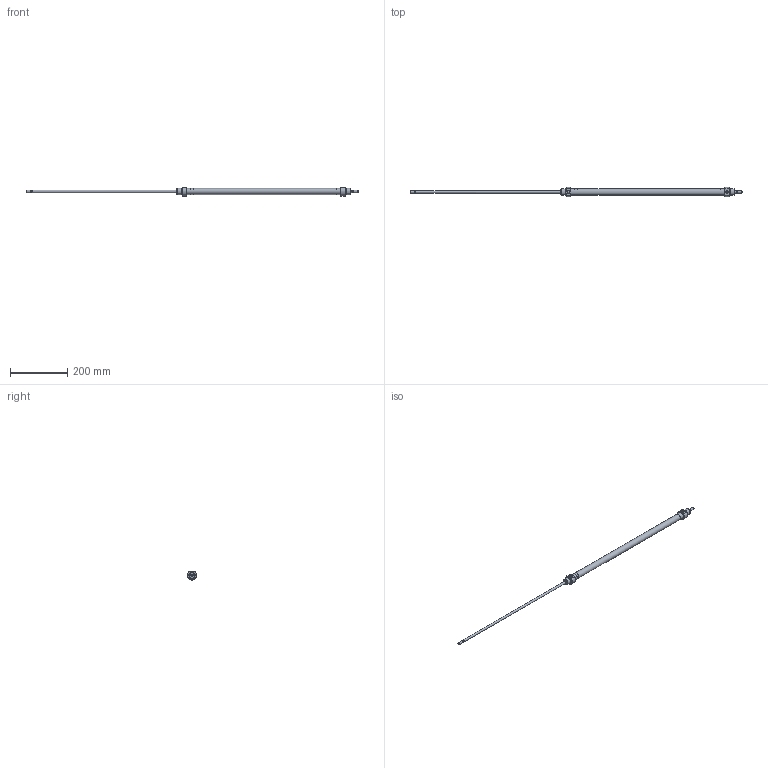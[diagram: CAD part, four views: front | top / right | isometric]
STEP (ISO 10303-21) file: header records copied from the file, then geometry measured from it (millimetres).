
FILE_DESCRIPTION( ( 'STEP AP203' ), '1' );
FILE_NAME( '//expscmdclustefs.cadenas.external/client_exchange/iodir/jobs/output/wkb68462990_no0/STEP/M101-020-0500--__0__2_03.stp', ' ', ( ' ' ), ( ' ' ), 'PSStep 15.0.47', 'PARTsolutions', ' ' );
FILE_SCHEMA( ( 'CONFIG_CONTROL_DESIGN' ) );
Length unit declared in the file: millimetre
Products named in the file (3): M101-020-0500-- [0]; HI_M101-020-0500---[0]-z; HI_M101-020-0500---[0]-k
Assembly tree (2 placements, depth 2):
  M101-020-0500-- [0]
    HI_M101-020-0500---[0]-z
    HI_M101-020-0500---[0]-k
Bounding box: 1156 x 32 x 28 mm (x, y, z)
Volume: 128863.4 mm3; surface area: 109472.4 mm2
Topology: 2 solids, 2 shells, 65 faces, 129 edges, 80 vertices
Faces by surface type: plane 26, cylinder 23, cone 14, torus 2
Full cylindrical faces by diameter (mm): 6.466 x2, 8 x6, 8.566 x2, 20 x2, 20.16 x4, 21.6 x1, 22 x4
Entity records: 1702 total; most frequent: CARTESIAN_POINT 356, DIRECTION 280, ORIENTED_EDGE 184, AXIS2_PLACEMENT_3D 128, EDGE_LOOP 116, EDGE_CURVE 92, FACE_OUTER_BOUND 88, VERTEX_POINT 76
